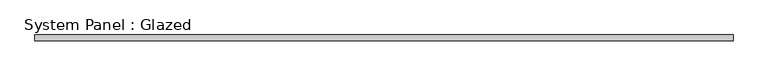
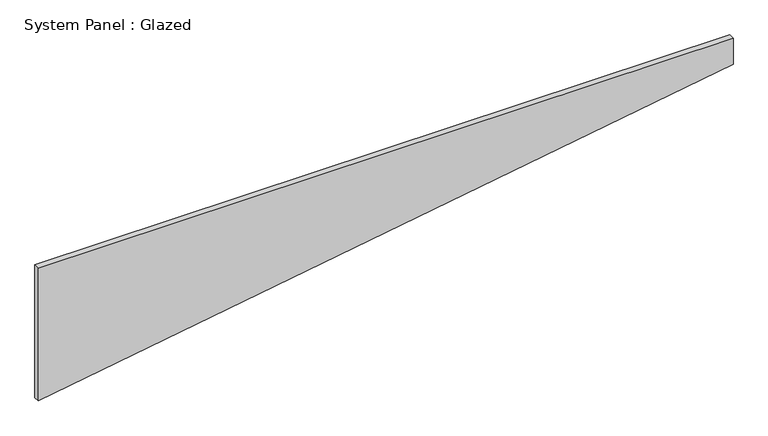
"""IFC4 building model written with IfcOpenShell, lengths in millimetres: plate geometry, System Panel : Glazed."""

from ifc_helpers import new_model, si_unit, frame, origin, place, context, project, spatial, polyline, outline, extrude, source, transform, mapped, element, save


def system_panel_glazed_acf1b168(model_context):
    return source(origin(), model_context, "Body", "SweptSolid", [
        extrude(outline(polyline([(0.0, -1504.95), (488.1376902, 1504.95), (607.3816085, 1504.95), (607.3816085, -1504.95), (0.0, -1504.95)])), frame((0.0, 19.05, 0.0), z_axis=(0.0, 1.0, 0.0), x_axis=(0.0, 0.0, 1.0)), (0.0, 0.0, 1.0), 25.4),
    ])


if __name__ == "__main__":
    model = new_model("IFC4")
    model_context = context("Model", 3, world=origin())
    ifc_project = project(units=[si_unit("LENGTHUNIT", "METRE", prefix="MILLI")], contexts=[model_context])
    site = spatial("IfcSite", under=ifc_project)
    building = spatial("IfcBuilding", under=site)
    placement = place(None, origin())
    system_panel_glazed_shape = system_panel_glazed_acf1b168(model_context)
    element("IfcPlate", 1, ObjectType="System Panel : Glazed", at=placement, inside=building, context=model_context, shape_type="MappedRepresentation", body=[
        mapped(system_panel_glazed_shape, transform((0.0, 0.0, 0.0), x_axis=(1.0, 0.0, 0.0), y_axis=(0.0, 1.0, 0.0), z_axis=(0.0, 0.0, 1.0))),
    ])
    save(model, "model.ifc")
